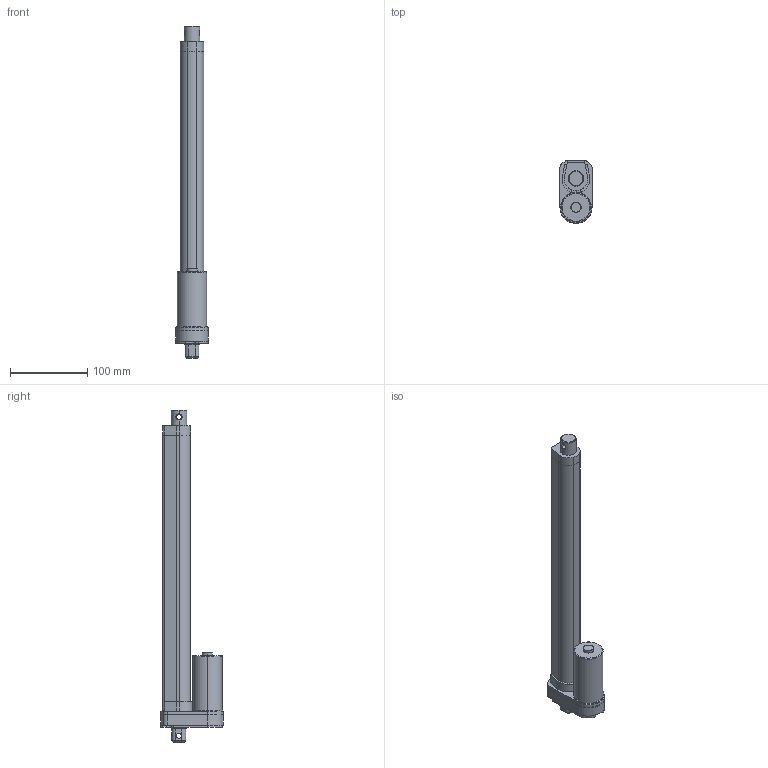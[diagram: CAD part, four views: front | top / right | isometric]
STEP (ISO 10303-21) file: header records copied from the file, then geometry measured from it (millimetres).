
FILE_DESCRIPTION (( 'STEP AP203' ), '1' );
FILE_NAME ('la3300.step', '2015-06-16T03:43:27', ( 'development' ), ( '' ), 'SwSTEP 2.0', 'SolidWorks 2015', '' );
FILE_SCHEMA (( 'CONFIG_CONTROL_DESIGN' ));
Length unit declared in the file: millimetre
Products named in the file (1): la3300
Bounding box: 41.55 x 81.55 x 430 mm (x, y, z)
Surface area: 71997.9 mm2 (no closed solid volume)
Topology: 0 solids, 6 shells, 157 faces, 435 edges, 286 vertices
Faces by surface type: cylinder 82, plane 55, torus 14, bspline 4, cone 2
Entity records: 5522 total; most frequent: CARTESIAN_POINT 1375, DIRECTION 928, ORIENTED_EDGE 758, EDGE_CURVE 435, AXIS2_PLACEMENT_3D 351, VERTEX_POINT 286, LINE 226, VECTOR 226
